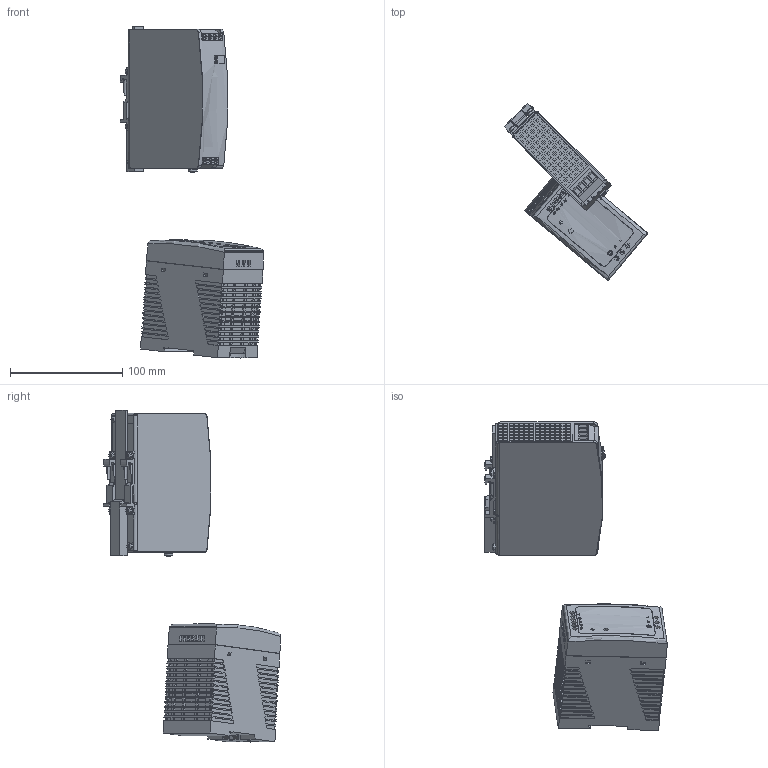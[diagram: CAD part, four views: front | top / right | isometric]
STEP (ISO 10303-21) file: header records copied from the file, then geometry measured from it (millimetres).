
FILE_DESCRIPTION(('ONLY FOR INFORMATION','HiCAD-Model','HiCAD-STEP-TRANSLATION'),'2;1');
FILE_NAME('Q:/##','2010-00-00',('D&E Department'),('Simco (Nederland) B.V.','Aalsvoort 74','NL-7241 MB LOCHEM','www.simco-ion.nl'),' HiCAD 2010, Step 1502.3 ','HiCAD 2010','confidential');
FILE_SCHEMA(('AUTOMOTIVE_DESIGN { 1 2 10303 214 0 1 1 1 }'));
Products named in the file (17): SIMCO_DIN_RAIL_POWER_SUPPLIES; A519020425; A519020430; A5190204300; GEWINDE; GEWINDE_2; GEWINDE02; GEWINDE020; GEWINDE021; GEWINDE_2_2; GEWINDE0202; GEWINDE02020; GEWINDE02021; GEWINDE022; GEWINDE023; GEWINDE024; GEWINDE025
Assembly tree (16 placements, depth 3):
  SIMCO_DIN_RAIL_POWER_SUPPLIES
    A519020425
    A519020430
    A5190204300
      GEWINDE
      GEWINDE_2
      GEWINDE02
      GEWINDE020
      GEWINDE021
      GEWINDE_2_2
      GEWINDE0202
      GEWINDE02020
      GEWINDE02021
      GEWINDE022
      GEWINDE023
      GEWINDE024
      GEWINDE025
Bounding box: 128.3 x 158.09 x 296.23 mm (x, y, z)
Topology: 32 solids, 32 shells, 3512 faces, 9204 edges, 5880 vertices
Faces by surface type: plane 2686, cylinder 574, bspline 92, torus 74, sphere 44, cone 42
Full cylindrical faces by diameter (mm): 0.8 x2, 1.2 x1, 2.387 x22, 2.4 x6, 2.9 x1, 3 x19, 3.1 x1, 3.141 x2, 3.5 x4, 3.9 x9, 4 x3, 4.2 x1, 4.5 x10, 4.8 x7, 5 x7, 5.7 x6, 8 x1
Entity records: 303658 total; most frequent: CARTESIAN_POINT 152940, ORIENTED_EDGE 17782, DIRECTION 16590, COLOUR_RGB 11360, PRESENTATION_STYLE_ASSIGNMENT 11360, OVER_RIDING_STYLED_ITEM 11345, EDGE_CURVE 8891, CURVE_STYLE 8449
